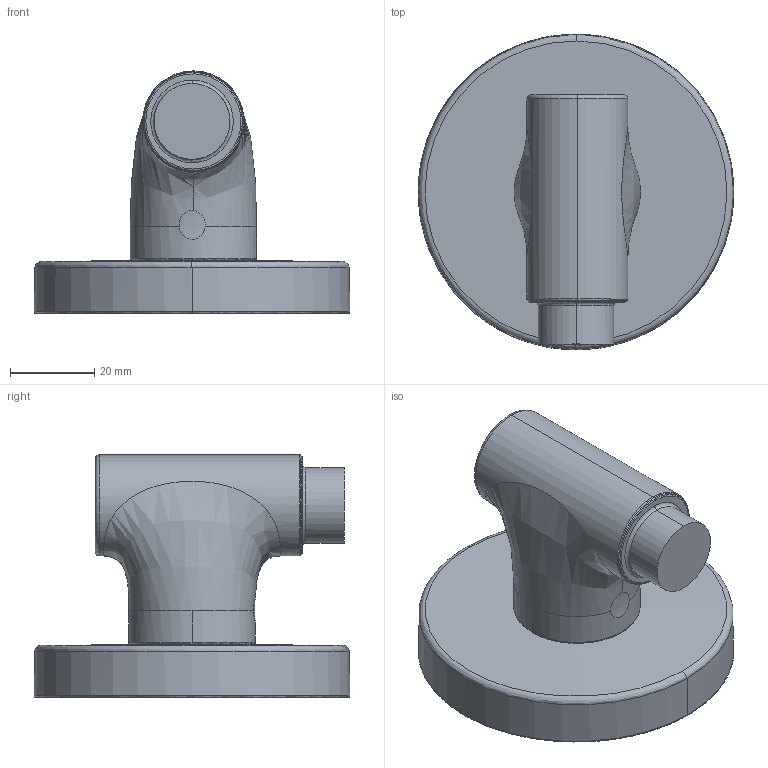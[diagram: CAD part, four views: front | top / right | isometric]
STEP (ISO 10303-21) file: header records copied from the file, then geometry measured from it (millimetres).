
FILE_DESCRIPTION (( 'STEP AP203' ), '1' );
FILE_NAME ('290022(2024).STEP', '2024-02-08T07:45:21', ( '' ), ( '' ), 'SwSTEP 2.0', 'SolidWorks 2016', '' );
FILE_SCHEMA (( 'CONFIG_CONTROL_DESIGN' ));
Length unit declared in the file: millimetre
Products named in the file (1): 290022(2024)
Bounding box: 74.99 x 74.99 x 57.5 mm (x, y, z)
Volume: 96934.8 mm3; surface area: 17766.3 mm2
Topology: 1 solids, 1 shells, 37 faces, 99 edges, 67 vertices
Faces by surface type: torus 12, bspline 10, cylinder 6, plane 5, cone 4
Entity records: 2377 total; most frequent: CARTESIAN_POINT 1368, DIRECTION 211, ORIENTED_EDGE 198, AXIS2_PLACEMENT_3D 100, EDGE_CURVE 99, CIRCLE 72, VERTEX_POINT 67, EDGE_LOOP 40
